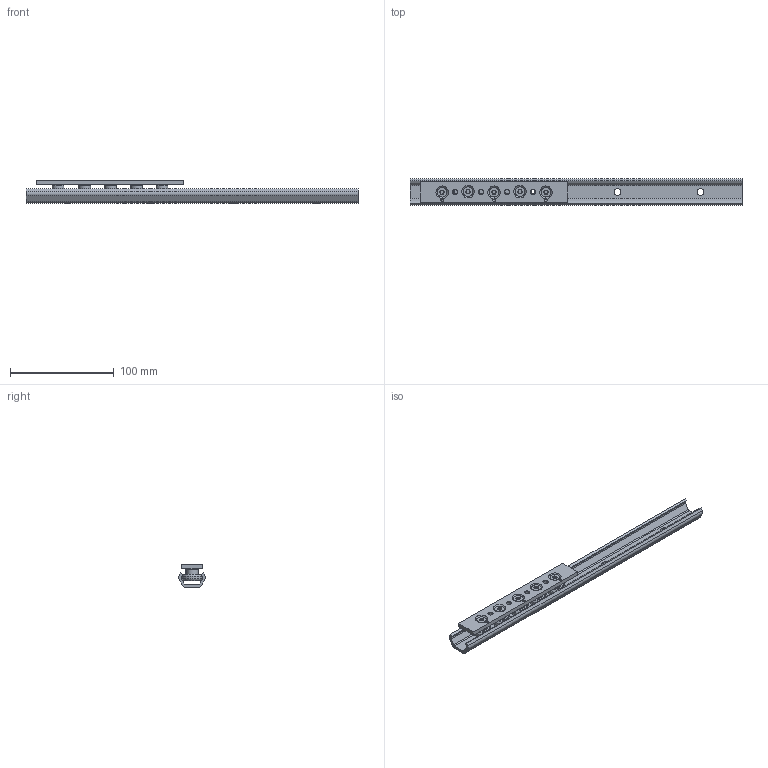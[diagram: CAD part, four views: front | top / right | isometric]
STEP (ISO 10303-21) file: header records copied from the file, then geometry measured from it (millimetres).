
FILE_DESCRIPTION( ( 'STEP AP214' ), '1' );
FILE_NAME( 'p:/temp/worker_300/temp/exporttempdir_2980_180_ehSBN/format_0/TEN26-0320-CEN26-142.stp', '2020-01-13T20:07:55', ( '' ), ( '' ), ' ', 'PARTsolutions', ' ' );
FILE_SCHEMA( ( 'AUTOMOTIVE_DESIGN { 1 0 10303 214 1 1 1 1 }' ) );
Length unit declared in the file: millimetre
Products named in the file (6): TEN26-0320-CEN26-142; _TEN 26-320; _CEN26-142_1; _RLN26(11.2_M5); _RLA26(11.2_M5); _LAN-26
Assembly tree (12 placements, depth 2):
  TEN26-0320-CEN26-142
    _TEN 26-320
    _CEN26-142_1
    _RLN26(11.2_M5)  x2
    _RLA26(11.2_M5)  x3
    _LAN-26  x5
Bounding box: 320 x 26 x 22 mm (x, y, z)
Volume: 55015.8 mm3; surface area: 43555.9 mm2
Topology: 12 solids, 12 shells, 375 faces, 802 edges, 496 vertices
Faces by surface type: plane 205, cylinder 114, cone 41, bspline 15
Full cylindrical faces by diameter (mm): 2.5 x3, 4.134 x9, 4.5 x5, 5 x10, 6.5 x4, 9.3 x5, 11.2 x10, 11.6 x10, 15.7 x10, 16.7 x10
Entity records: 5854 total; most frequent: CARTESIAN_POINT 854, DIRECTION 800, ORIENTED_EDGE 582, AXIS2_PLACEMENT_3D 336, EDGE_CURVE 291, EDGE_LOOP 280, VERTEX_POINT 222, FACE_OUTER_BOUND 209
